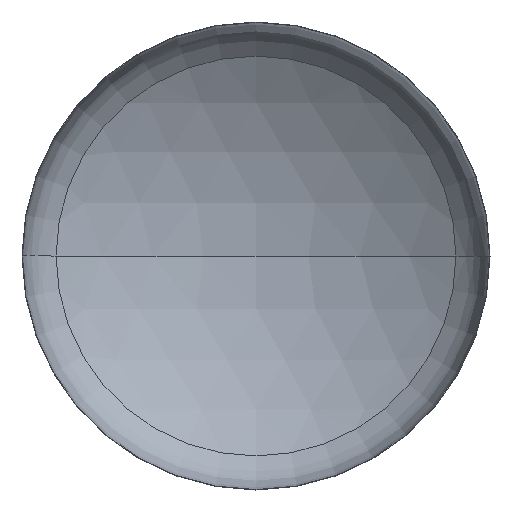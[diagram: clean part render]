
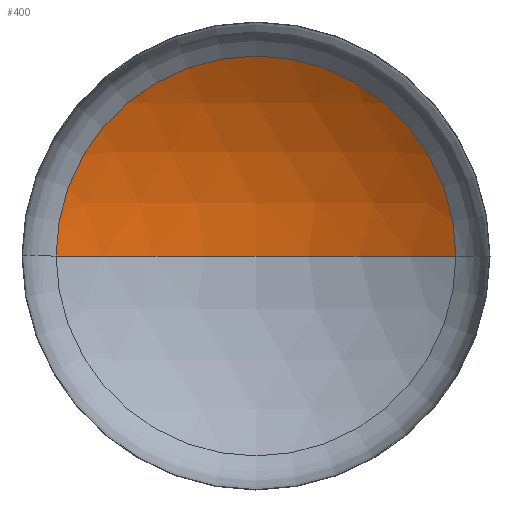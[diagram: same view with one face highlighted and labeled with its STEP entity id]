
A CAD part, front view. The second image highlights one B-rep face of the part: STEP entity #400.
In plain terms, the highlighted spherical face has radius 3600 mm.
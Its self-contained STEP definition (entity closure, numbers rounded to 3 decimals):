
#10 = AXIS2_PLACEMENT_3D ( 'NONE', #168, #287, #289 ) ;
#12 = AXIS2_PLACEMENT_3D ( 'NONE', #172, #344, #203 ) ;
#16 = EDGE_LOOP ( 'NONE', ( #87, #20, #71 ) ) ;
#18 = AXIS2_PLACEMENT_3D ( 'NONE', #316, #100, #177 ) ;
#20 = ORIENTED_EDGE ( 'NONE', *, *, #343, .T. ) ;
#35 = VERTEX_POINT ( 'NONE', #378 ) ;
#71 = ORIENTED_EDGE ( 'NONE', *, *, #342, .T. ) ;
#79 = CARTESIAN_POINT ( 'NONE',  ( 0., -2436.303, 0. ) ) ;
#82 = SPHERICAL_SURFACE ( 'NONE', #294, 3600. ) ;
#87 = ORIENTED_EDGE ( 'NONE', *, *, #349, .F. ) ;
#89 = VERTEX_POINT ( 'NONE', #200 ) ;
#100 = DIRECTION ( 'NONE',  ( 0., 0., -1. ) ) ;
#135 = VERTEX_POINT ( 'NONE', #341 ) ;
#143 = CIRCLE ( 'NONE', #18, 3600. ) ;
#168 = CARTESIAN_POINT ( 'NONE',  ( 0., -2436.303, 0. ) ) ;
#172 = CARTESIAN_POINT ( 'NONE',  ( 0., 607.653, 0. ) ) ;
#174 = DIRECTION ( 'NONE',  ( 0., 0., -1. ) ) ;
#177 = DIRECTION ( 'NONE',  ( -1., 0., 0. ) ) ;
#200 = CARTESIAN_POINT ( 'NONE',  ( -1922.065, 607.653, 0. ) ) ;
#203 = DIRECTION ( 'NONE',  ( 1., 0., 0. ) ) ;
#252 = FACE_OUTER_BOUND ( 'NONE', #16, .T. ) ;
#269 = CIRCLE ( 'NONE', #12, 1922.065 ) ;
#287 = DIRECTION ( 'NONE',  ( 0., 0., 1. ) ) ;
#289 = DIRECTION ( 'NONE',  ( 1., 0., 0. ) ) ;
#294 = AXIS2_PLACEMENT_3D ( 'NONE', #79, #174, #345 ) ;
#316 = CARTESIAN_POINT ( 'NONE',  ( 0., -2436.303, 0. ) ) ;
#341 = CARTESIAN_POINT ( 'NONE',  ( 0., 1163.697, 0. ) ) ;
#342 = EDGE_CURVE ( 'NONE', #35, #89, #269, .T. ) ;
#343 = EDGE_CURVE ( 'NONE', #135, #35, #143, .T. ) ;
#344 = DIRECTION ( 'NONE',  ( 0., -1., 0. ) ) ;
#345 = DIRECTION ( 'NONE',  ( -1., 0., 0. ) ) ;
#349 = EDGE_CURVE ( 'NONE', #135, #89, #391, .T. ) ;
#378 = CARTESIAN_POINT ( 'NONE',  ( 1922.065, 607.653, 0. ) ) ;
#391 = CIRCLE ( 'NONE', #10, 3600. ) ;
#400 = ADVANCED_FACE ( 'NONE', ( #252 ), #82, .F. ) ;
